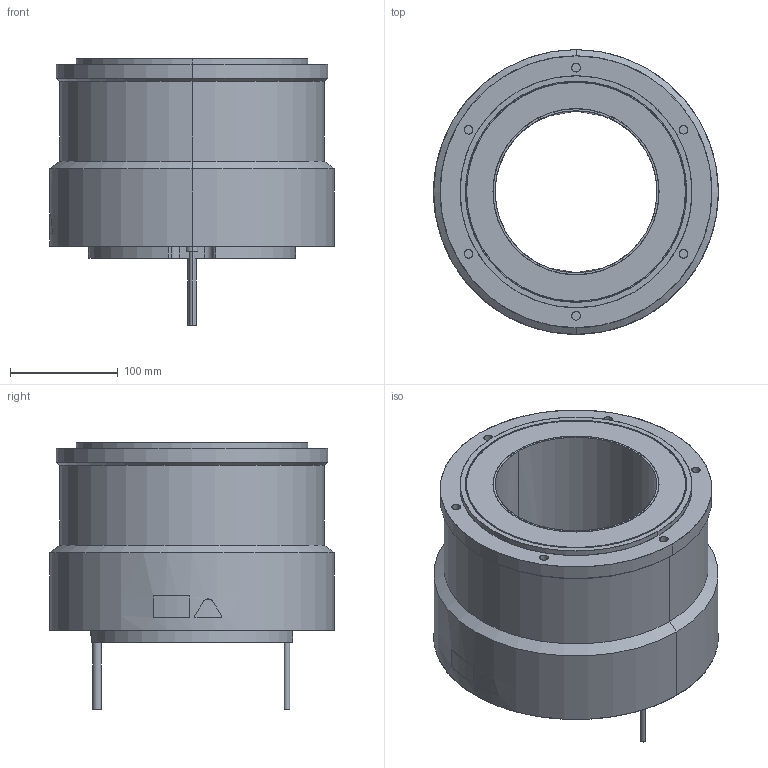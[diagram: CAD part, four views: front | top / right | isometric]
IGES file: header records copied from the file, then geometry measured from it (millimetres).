
Start section: SolidWorks IGES file using analytic representation for surfaces
Bounding box: 264.08 x 264 x 247 mm (x, y, z)
Surface area: 323362.2 mm2 (no closed solid volume)
Topology: 0 solids, 0 shells, 171 faces, 3659 edges, 3659 vertices
Faces by surface type: revolution 107, bspline 64
